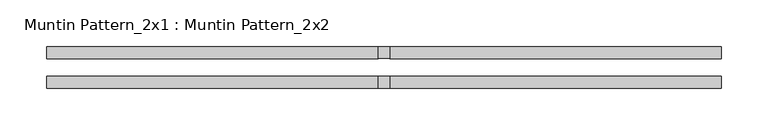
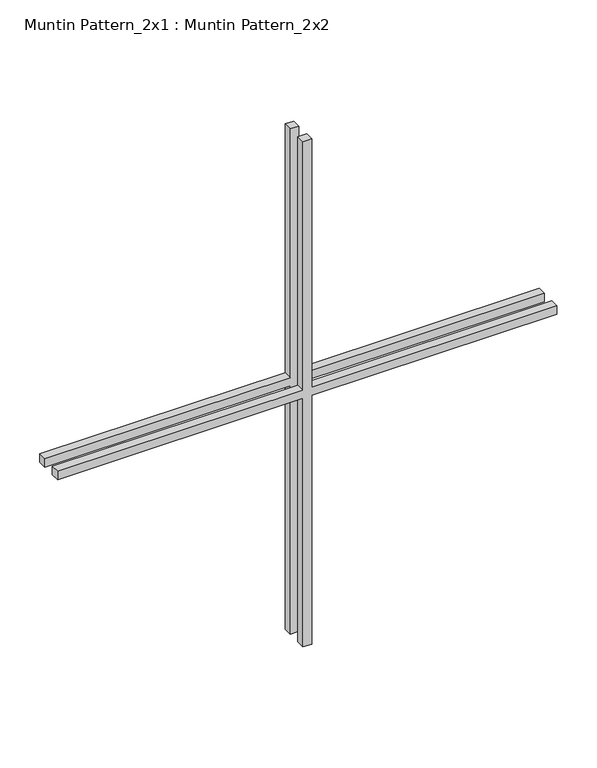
"""IFC4 building model written with IfcOpenShell, lengths in millimetres: proxy geometry, Muntin Pattern_2x1 : Muntin Pattern_2x2."""

from ifc_helpers import new_model, si_unit, frame, origin, place, context, project, spatial, polyline, outline, extrude, source, transform, mapped, element, save


def muntin_pattern_2x1_muntin_pattern_2x2_8b241174(model_context):
    return source(origin(), model_context, "Body", "SweptSolid", [
        extrude(outline(polyline([(393.6955927, -6.35), (393.6955927, -361.95), (380.9955927, -361.95), (380.9955927, -6.35), (0.0, -6.35), (0.0, 6.35), (380.9955927, 6.35), (380.9955927, 361.95), (393.6955927, 361.95), (393.6955927, 6.35), (774.6911855, 6.35), (774.6911855, -6.35), (393.6955927, -6.35)])), frame((0.0, 9.525, 0.0), z_axis=(0.0, 1.0, 0.0), x_axis=(0.0, 0.0, 1.0)), (0.0, 0.0, 1.0), 12.7),
        extrude(outline(polyline([(393.6955927, -6.35), (393.6955927, -361.95), (380.9955927, -361.95), (380.9955927, -6.35), (0.0, -6.35), (0.0, 6.35), (380.9955927, 6.35), (380.9955927, 361.95), (393.6955927, 361.95), (393.6955927, 6.35), (774.6911855, 6.35), (774.6911855, -6.35), (393.6955927, -6.35)])), frame((0.0, -22.225, 0.0), z_axis=(0.0, 1.0, 0.0), x_axis=(0.0, 0.0, 1.0)), (0.0, 0.0, 1.0), 12.7),
    ])


if __name__ == "__main__":
    model = new_model("IFC4")
    model_context = context("Model", 3, world=origin())
    ifc_project = project(units=[si_unit("LENGTHUNIT", "METRE", prefix="MILLI")], contexts=[model_context])
    site = spatial("IfcSite", under=ifc_project)
    building = spatial("IfcBuilding", under=site)
    placement = place(None, origin())
    muntin_pattern_2x1_muntin_pattern_2x2_shape = muntin_pattern_2x1_muntin_pattern_2x2_8b241174(model_context)
    element("IfcBuildingElementProxy", 1, Name="Muntin Pattern_2x1 : Muntin Pattern_2x2", ObjectType="Muntin Pattern_2x1 : Muntin Pattern_2x2", at=placement, inside=building, context=model_context, shape_type="MappedRepresentation", body=[
        mapped(muntin_pattern_2x1_muntin_pattern_2x2_shape, transform((0.0, 0.0, 0.0), x_axis=(1.0, 0.0, 0.0), y_axis=(0.0, 1.0, 0.0), z_axis=(0.0, 0.0, 1.0))),
    ])
    save(model, "model.ifc")
